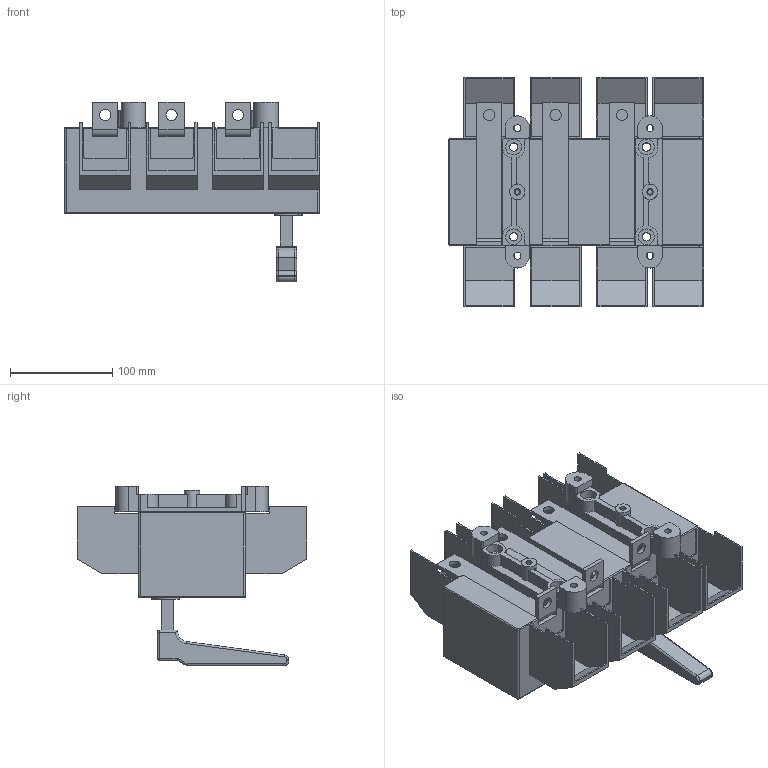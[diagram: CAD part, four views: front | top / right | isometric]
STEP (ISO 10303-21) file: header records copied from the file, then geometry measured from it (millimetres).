
FILE_DESCRIPTION(/* description */ (''),/* implementation_level */ '2;1');
FILE_NAME(/* name */ 'RA400 P3 A-R z oslona zaciskow.stp',/* time_stamp */ '2021-08-18T14:10:17+02:00',/* author */ (''),/* organization */ (''),/* preprocessor_version */ 'ST-DEVELOPER v18.1',/* originating_system */ 'SIEMENS PLM Software NX 1965',/* authorisation */ '');
FILE_SCHEMA (('AUTOMOTIVE_DESIGN { 1 0 10303 214 3 1 1 1 }'));
Length unit declared in the file: millimetre
Products named in the file (1): RA400 P3 A-R z oslona zaciskow
Bounding box: 250 x 225 x 176 mm (x, y, z)
Volume: 2443398.4 mm3; surface area: 340025.1 mm2
Topology: 1 solids, 1 shells, 466 faces, 1259 edges, 813 vertices
Faces by surface type: plane 315, cylinder 129, bspline 8, torus 8, sphere 6
Full cylindrical faces by diameter (mm): 4.8 x2, 6.2 x2, 7 x4, 8.2 x4, 11 x6, 14 x4, 15 x2, 15.5 x4
Entity records: 14499 total; most frequent: CARTESIAN_POINT 2659, ORIENTED_EDGE 2442, DIRECTION 2419, EDGE_CURVE 1221, LINE 933, VECTOR 933, VERTEX_POINT 806, AXIS2_PLACEMENT_3D 743
